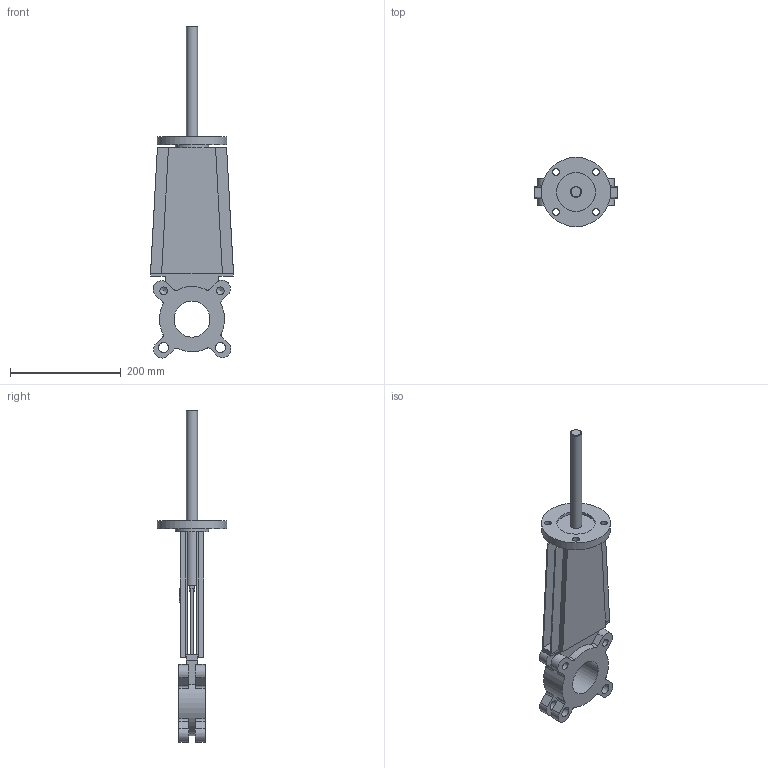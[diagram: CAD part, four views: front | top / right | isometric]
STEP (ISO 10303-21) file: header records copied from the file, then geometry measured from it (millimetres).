
FILE_DESCRIPTION(('STEP AP203'), '1');
FILE_NAME('K21GVA_DN65', '', ('UNSPECIFIED'), ('UNSPECIFIED'), 'ASCON STEP Converter 1.6', 'ASCON Math Kernel', '');
FILE_SCHEMA(('CONFIG_CONTROL_DESIGN'));
Length unit declared in the file: millimetre
Bounding box: 150 x 125 x 600.23 mm (x, y, z)
Volume: 1004611.6 mm3; surface area: 299543.2 mm2
Topology: 1 solids, 1 shells, 159 faces, 446 edges, 289 vertices
Faces by surface type: plane 102, cylinder 52, cone 5
Full cylindrical faces by diameter (mm): 12 x4, 13.835 x4, 18 x4, 20 x2, 60 x1, 65 x1, 70 x1, 125 x1
Entity records: 6326 total; most frequent: DIRECTION 872, CARTESIAN_POINT 864, ORIENTED_EDGE 838, EDGE_CURVE 419, AXIS2_PLACEMENT_3D 293, LINE 286, VECTOR 286, VERTEX_POINT 285
